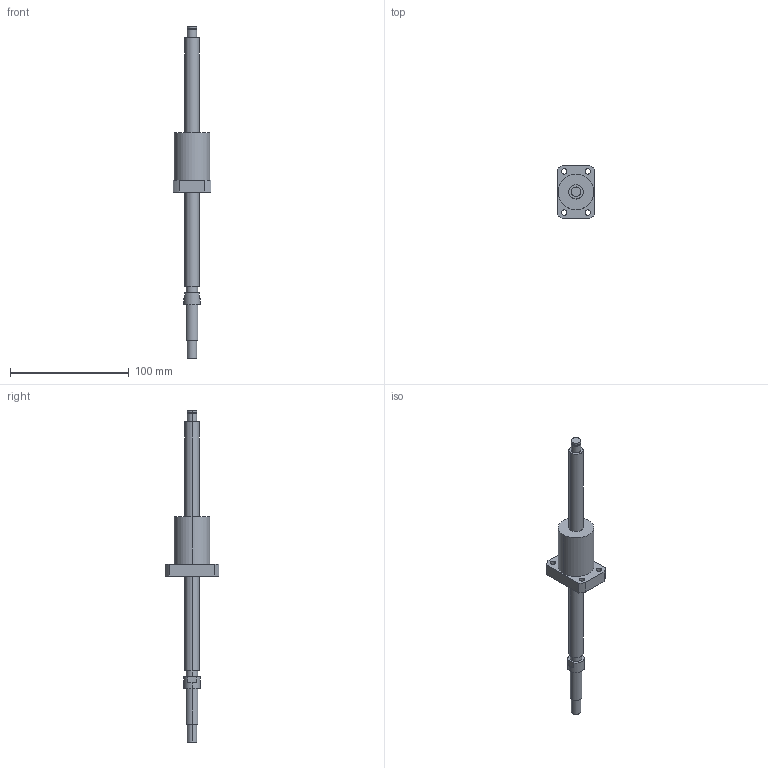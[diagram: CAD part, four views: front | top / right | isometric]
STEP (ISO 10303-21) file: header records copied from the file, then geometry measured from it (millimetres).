
FILE_DESCRIPTION((''),'2;1');
FILE_NAME('R12-10B1-FSW-210-280','2008-03-28T',('mahdi'),(''),'PRO/ENGINEER BY PARAMETRIC TECHNOLOGY CORPORATION, 2005070','PRO/ENGINEER BY PARAMETRIC TECHNOLOGY CORPORATION, 2005070','');
FILE_SCHEMA(('CONFIG_CONTROL_DESIGN'));
Length unit declared in the file: millimetre
Products named in the file (1): R12-10B1-FSW-210-280
Bounding box: 32 x 45 x 280 mm (x, y, z)
Volume: 64731.5 mm3; surface area: 17013.5 mm2
Topology: 1 solids, 1 shells, 64 faces, 144 edges, 96 vertices
Faces by surface type: cylinder 40, plane 24
Entity records: 1886 total; most frequent: DIRECTION 356, CARTESIAN_POINT 304, ORIENTED_EDGE 288, AXIS2_PLACEMENT_3D 148, EDGE_CURVE 144, VERTEX_POINT 96, EDGE_LOOP 86, CIRCLE 84
